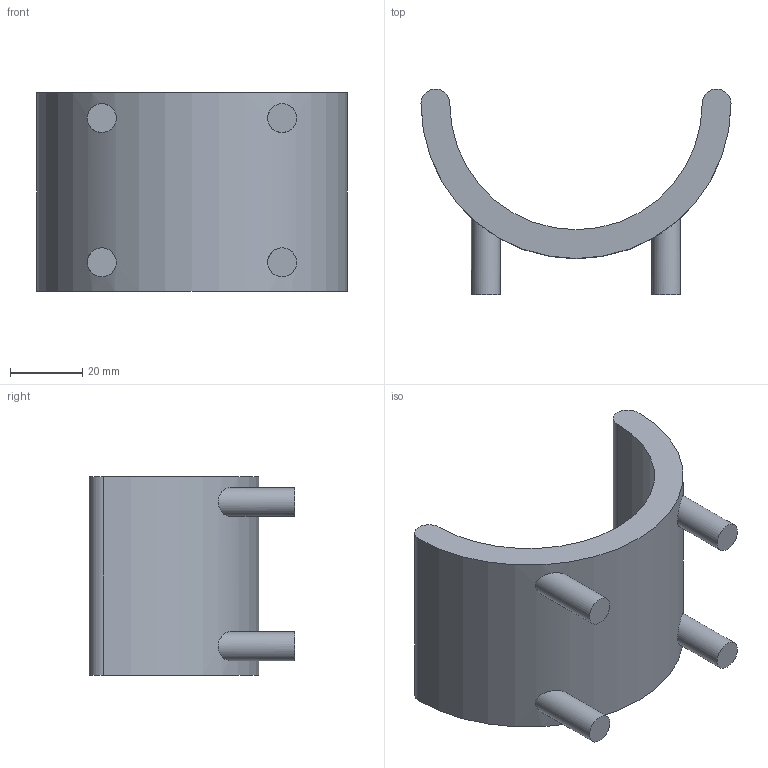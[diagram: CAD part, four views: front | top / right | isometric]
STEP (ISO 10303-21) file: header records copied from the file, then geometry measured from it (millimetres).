
FILE_DESCRIPTION(/* description */ (''),/* implementation_level */ '2;1');
FILE_NAME(/* name */ 'C:\Users\Jaime\Desktop\Universidad\MÁSTER ING. INDUSTRIAL\TFM\CD\PiezaH.stp',/* time_stamp */ '2018-02-15T23:59:40+01:00',/* author */ ('Jaime'),/* organization */ (''),/* preprocessor_version */ 'ST-DEVELOPER v16.5',/* originating_system */ 'Autodesk Inventor 2017',/* authorisation */ '');
FILE_SCHEMA (('AUTOMOTIVE_DESIGN { 1 0 10303 214 3 1 1 }'));
Length unit declared in the file: millimetre
Products named in the file (1): PiezaH
Bounding box: 86 x 57 x 55 mm (x, y, z)
Volume: 60303.4 mm3; surface area: 18700.8 mm2
Topology: 1 solids, 1 shells, 14 faces, 28 edges, 20 vertices
Faces by surface type: cylinder 8, plane 6
Full cylindrical faces by diameter (mm): 8 x4
Entity records: 468 total; most frequent: CARTESIAN_POINT 183, DIRECTION 58, ORIENTED_EDGE 40, AXIS2_PLACEMENT_3D 27, EDGE_LOOP 22, EDGE_CURVE 20, VERTEX_POINT 16, FACE_OUTER_BOUND 14
